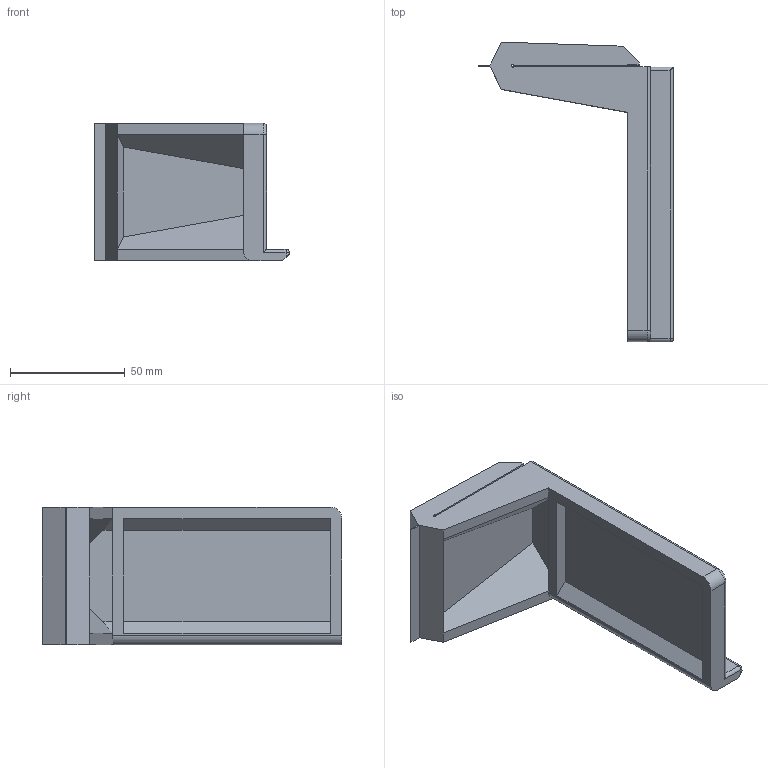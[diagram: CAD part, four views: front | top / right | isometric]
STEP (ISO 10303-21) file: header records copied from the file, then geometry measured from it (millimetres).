
FILE_DESCRIPTION(/* description */ (''),/* implementation_level */ '2;1');
FILE_NAME(/* name */ 'D:/3D Objects/★自作系/250811のこ引きジグ/250814のこ引きジグ標準型/ノコ案内ジグ標準型i改.stp',/* time_stamp */ '2025-09-10T22:59:56+09:00',/* author */ (''),/* organization */ (''),/* preprocessor_version */ 'ST-DEVELOPER v15.2',/* originating_system */ 'Autodesk Translator Framework v2.0.0.5431',/* authorisation */ '');
FILE_SCHEMA (('AUTOMOTIVE_DESIGN { 1 0 10303 214 3 1 1 }'));
Length unit declared in the file: centimetre
Products named in the file (1): 250813i修正
Bounding box: 85 x 130.6 x 60 mm (x, y, z)
Volume: 104349.4 mm3; surface area: 39736.9 mm2
Topology: 1 solids, 1 shells, 53 faces, 134 edges, 84 vertices
Faces by surface type: plane 42, cylinder 9, sphere 1, torus 1
Entity records: 1576 total; most frequent: CARTESIAN_POINT 272, ORIENTED_EDGE 268, DIRECTION 259, EDGE_CURVE 134, LINE 117, VECTOR 117, VERTEX_POINT 84, AXIS2_PLACEMENT_3D 71
